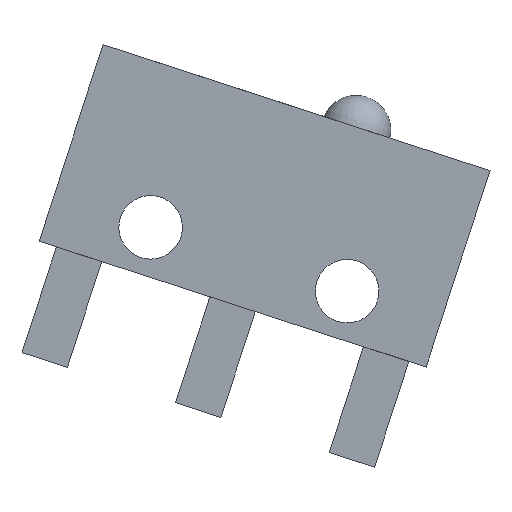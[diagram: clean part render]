
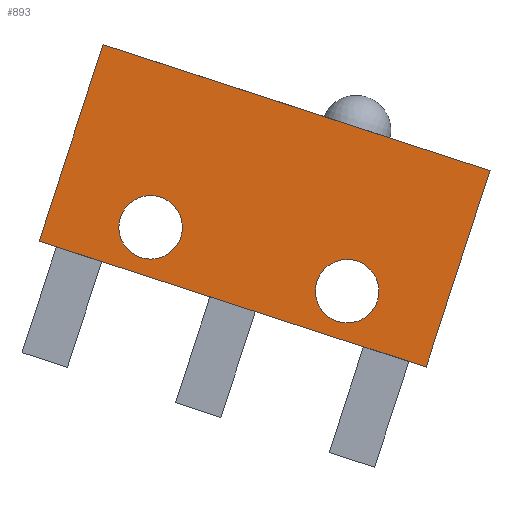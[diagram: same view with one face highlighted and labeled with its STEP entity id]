
A CAD part, left-side view. The second image highlights one B-rep face of the part: STEP entity #893.
In plain terms, the highlighted planar face has unit normal (-1, 0, 0).
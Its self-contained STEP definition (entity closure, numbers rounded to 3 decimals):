
#44 = PLANE('',#45);
#45 = AXIS2_PLACEMENT_3D('',#46,#47,#48);
#46 = CARTESIAN_POINT('',(21.2,22.442,8.215));
#47 = DIRECTION('',(0.,0.951,0.309));
#48 = DIRECTION('',(0.,0.309,-0.951));
#72 = PLANE('',#73);
#73 = AXIS2_PLACEMENT_3D('',#74,#75,#76);
#74 = CARTESIAN_POINT('',(21.2,22.442,8.215));
#75 = DIRECTION('',(0.,-0.309,0.951));
#76 = DIRECTION('',(1.,0.,0.));
#100 = PLANE('',#101);
#101 = AXIS2_PLACEMENT_3D('',#102,#103,#104);
#102 = CARTESIAN_POINT('',(21.2,34.616,12.171));
#103 = DIRECTION('',(0.,0.951,0.309));
#104 = DIRECTION('',(0.,0.309,-0.951));
#126 = PLANE('',#127);
#127 = AXIS2_PLACEMENT_3D('',#128,#129,#130);
#128 = CARTESIAN_POINT('',(21.2,20.433,14.397));
#129 = DIRECTION('',(0.,-0.309,0.951));
#130 = DIRECTION('',(1.,0.,0.));
#161 = CYLINDRICAL_SURFACE('',#162,1.);
#162 = AXIS2_PLACEMENT_3D('',#163,#164,#165);
#163 = CARTESIAN_POINT('',(22.8,31.109,12.609));
#164 = DIRECTION('',(-1.,-0.,-0.));
#165 = DIRECTION('',(-0.,-0.309,0.951));
#196 = CYLINDRICAL_SURFACE('',#197,1.);
#197 = AXIS2_PLACEMENT_3D('',#198,#199,#200);
#198 = CARTESIAN_POINT('',(22.8,24.927,10.6));
#199 = DIRECTION('',(-1.,-0.,-0.));
#200 = DIRECTION('',(-0.,-0.309,0.951));
#212 = VERTEX_POINT('',#213);
#213 = CARTESIAN_POINT('',(15.4,22.442,8.215));
#236 = VERTEX_POINT('',#237);
#237 = CARTESIAN_POINT('',(15.4,20.433,14.397));
#258 = EDGE_CURVE('',#212,#236,#259,.T.);
#259 = SURFACE_CURVE('',#260,(#264,#271),.PCURVE_S1.);
#260 = LINE('',#261,#262);
#261 = CARTESIAN_POINT('',(15.4,22.442,8.215));
#262 = VECTOR('',#263,1.);
#263 = DIRECTION('',(0.,-0.309,0.951));
#264 = PCURVE('',#44,#265);
#265 = DEFINITIONAL_REPRESENTATION('',(#266),#270);
#266 = LINE('',#267,#268);
#267 = CARTESIAN_POINT('',(-0.,5.8));
#268 = VECTOR('',#269,1.);
#269 = DIRECTION('',(-1.,0.));
#270 = ( GEOMETRIC_REPRESENTATION_CONTEXT(2) 
PARAMETRIC_REPRESENTATION_CONTEXT() REPRESENTATION_CONTEXT('2D SPACE',''
  ) );
#271 = PCURVE('',#272,#277);
#272 = PLANE('',#273);
#273 = AXIS2_PLACEMENT_3D('',#274,#275,#276);
#274 = CARTESIAN_POINT('',(15.4,22.442,8.215));
#275 = DIRECTION('',(-1.,-0.,0.));
#276 = DIRECTION('',(0.,0.309,-0.951));
#277 = DEFINITIONAL_REPRESENTATION('',(#278),#282);
#278 = LINE('',#279,#280);
#279 = CARTESIAN_POINT('',(-0.,-0.));
#280 = VECTOR('',#281,1.);
#281 = DIRECTION('',(-1.,0.));
#282 = ( GEOMETRIC_REPRESENTATION_CONTEXT(2) 
PARAMETRIC_REPRESENTATION_CONTEXT() REPRESENTATION_CONTEXT('2D SPACE',''
  ) );
#289 = EDGE_CURVE('',#236,#290,#292,.T.);
#290 = VERTEX_POINT('',#291);
#291 = CARTESIAN_POINT('',(15.4,32.607,18.353));
#292 = SURFACE_CURVE('',#293,(#297,#304),.PCURVE_S1.);
#293 = LINE('',#294,#295);
#294 = CARTESIAN_POINT('',(15.4,20.433,14.397));
#295 = VECTOR('',#296,1.);
#296 = DIRECTION('',(0.,0.951,0.309));
#297 = PCURVE('',#126,#298);
#298 = DEFINITIONAL_REPRESENTATION('',(#299),#303);
#299 = LINE('',#300,#301);
#300 = CARTESIAN_POINT('',(-5.8,0.));
#301 = VECTOR('',#302,1.);
#302 = DIRECTION('',(0.,1.));
#303 = ( GEOMETRIC_REPRESENTATION_CONTEXT(2) 
PARAMETRIC_REPRESENTATION_CONTEXT() REPRESENTATION_CONTEXT('2D SPACE',''
  ) );
#304 = PCURVE('',#272,#305);
#305 = DEFINITIONAL_REPRESENTATION('',(#306),#310);
#306 = LINE('',#307,#308);
#307 = CARTESIAN_POINT('',(-6.5,0.));
#308 = VECTOR('',#309,1.);
#309 = DIRECTION('',(-0.,-1.));
#310 = ( GEOMETRIC_REPRESENTATION_CONTEXT(2) 
PARAMETRIC_REPRESENTATION_CONTEXT() REPRESENTATION_CONTEXT('2D SPACE',''
  ) );
#373 = EDGE_CURVE('',#212,#374,#376,.T.);
#374 = VERTEX_POINT('',#375);
#375 = CARTESIAN_POINT('',(15.4,34.616,12.171));
#376 = SURFACE_CURVE('',#377,(#381,#388),.PCURVE_S1.);
#377 = LINE('',#378,#379);
#378 = CARTESIAN_POINT('',(15.4,22.442,8.215));
#379 = VECTOR('',#380,1.);
#380 = DIRECTION('',(0.,0.951,0.309));
#381 = PCURVE('',#72,#382);
#382 = DEFINITIONAL_REPRESENTATION('',(#383),#387);
#383 = LINE('',#384,#385);
#384 = CARTESIAN_POINT('',(-5.8,0.));
#385 = VECTOR('',#386,1.);
#386 = DIRECTION('',(0.,1.));
#387 = ( GEOMETRIC_REPRESENTATION_CONTEXT(2) 
PARAMETRIC_REPRESENTATION_CONTEXT() REPRESENTATION_CONTEXT('2D SPACE',''
  ) );
#388 = PCURVE('',#272,#389);
#389 = DEFINITIONAL_REPRESENTATION('',(#390),#394);
#390 = LINE('',#391,#392);
#391 = CARTESIAN_POINT('',(-0.,-0.));
#392 = VECTOR('',#393,1.);
#393 = DIRECTION('',(-0.,-1.));
#394 = ( GEOMETRIC_REPRESENTATION_CONTEXT(2) 
PARAMETRIC_REPRESENTATION_CONTEXT() REPRESENTATION_CONTEXT('2D SPACE',''
  ) );
#765 = EDGE_CURVE('',#374,#290,#766,.T.);
#766 = SURFACE_CURVE('',#767,(#771,#778),.PCURVE_S1.);
#767 = LINE('',#768,#769);
#768 = CARTESIAN_POINT('',(15.4,34.616,12.171));
#769 = VECTOR('',#770,1.);
#770 = DIRECTION('',(0.,-0.309,0.951));
#771 = PCURVE('',#100,#772);
#772 = DEFINITIONAL_REPRESENTATION('',(#773),#777);
#773 = LINE('',#774,#775);
#774 = CARTESIAN_POINT('',(-0.,5.8));
#775 = VECTOR('',#776,1.);
#776 = DIRECTION('',(-1.,0.));
#777 = ( GEOMETRIC_REPRESENTATION_CONTEXT(2) 
PARAMETRIC_REPRESENTATION_CONTEXT() REPRESENTATION_CONTEXT('2D SPACE',''
  ) );
#778 = PCURVE('',#272,#779);
#779 = DEFINITIONAL_REPRESENTATION('',(#780),#784);
#780 = LINE('',#781,#782);
#781 = CARTESIAN_POINT('',(0.,-12.8));
#782 = VECTOR('',#783,1.);
#783 = DIRECTION('',(-1.,0.));
#784 = ( GEOMETRIC_REPRESENTATION_CONTEXT(2) 
PARAMETRIC_REPRESENTATION_CONTEXT() REPRESENTATION_CONTEXT('2D SPACE',''
  ) );
#789 = EDGE_CURVE('',#790,#790,#792,.T.);
#790 = VERTEX_POINT('',#791);
#791 = CARTESIAN_POINT('',(15.4,30.8,13.56));
#792 = SURFACE_CURVE('',#793,(#798,#805),.PCURVE_S1.);
#793 = CIRCLE('',#794,1.);
#794 = AXIS2_PLACEMENT_3D('',#795,#796,#797);
#795 = CARTESIAN_POINT('',(15.4,31.109,12.609));
#796 = DIRECTION('',(1.,-0.,0.));
#797 = DIRECTION('',(-0.,-0.309,0.951));
#798 = PCURVE('',#161,#799);
#799 = DEFINITIONAL_REPRESENTATION('',(#800),#804);
#800 = LINE('',#801,#802);
#801 = CARTESIAN_POINT('',(-0.,7.4));
#802 = VECTOR('',#803,1.);
#803 = DIRECTION('',(-1.,0.));
#804 = ( GEOMETRIC_REPRESENTATION_CONTEXT(2) 
PARAMETRIC_REPRESENTATION_CONTEXT() REPRESENTATION_CONTEXT('2D SPACE',''
  ) );
#805 = PCURVE('',#272,#806);
#806 = DEFINITIONAL_REPRESENTATION('',(#807),#815);
#807 = ( BOUNDED_CURVE() B_SPLINE_CURVE(2,(#808,#809,#810,#811,#812,#813
,#814),.UNSPECIFIED.,.T.,.F.) B_SPLINE_CURVE_WITH_KNOTS((1,2,2,2,2,1),(
    -2.094,0.,2.094,4.189,6.283,
8.378),.UNSPECIFIED.) CURVE() GEOMETRIC_REPRESENTATION_ITEM() 
RATIONAL_B_SPLINE_CURVE((1.,0.5,1.,0.5,1.,0.5,1.)) REPRESENTATION_ITEM(
  '') );
#808 = CARTESIAN_POINT('',(-2.5,-9.6));
#809 = CARTESIAN_POINT('',(-2.5,-7.868));
#810 = CARTESIAN_POINT('',(-1.,-8.734));
#811 = CARTESIAN_POINT('',(0.5,-9.6));
#812 = CARTESIAN_POINT('',(-1.,-10.466));
#813 = CARTESIAN_POINT('',(-2.5,-11.332));
#814 = CARTESIAN_POINT('',(-2.5,-9.6));
#815 = ( GEOMETRIC_REPRESENTATION_CONTEXT(2) 
PARAMETRIC_REPRESENTATION_CONTEXT() REPRESENTATION_CONTEXT('2D SPACE',''
  ) );
#843 = EDGE_CURVE('',#844,#844,#846,.T.);
#844 = VERTEX_POINT('',#845);
#845 = CARTESIAN_POINT('',(15.4,24.618,11.551));
#846 = SURFACE_CURVE('',#847,(#852,#859),.PCURVE_S1.);
#847 = CIRCLE('',#848,1.);
#848 = AXIS2_PLACEMENT_3D('',#849,#850,#851);
#849 = CARTESIAN_POINT('',(15.4,24.927,10.6));
#850 = DIRECTION('',(1.,-0.,0.));
#851 = DIRECTION('',(-0.,-0.309,0.951));
#852 = PCURVE('',#196,#853);
#853 = DEFINITIONAL_REPRESENTATION('',(#854),#858);
#854 = LINE('',#855,#856);
#855 = CARTESIAN_POINT('',(-0.,7.4));
#856 = VECTOR('',#857,1.);
#857 = DIRECTION('',(-1.,0.));
#858 = ( GEOMETRIC_REPRESENTATION_CONTEXT(2) 
PARAMETRIC_REPRESENTATION_CONTEXT() REPRESENTATION_CONTEXT('2D SPACE',''
  ) );
#859 = PCURVE('',#272,#860);
#860 = DEFINITIONAL_REPRESENTATION('',(#861),#869);
#861 = ( BOUNDED_CURVE() B_SPLINE_CURVE(2,(#862,#863,#864,#865,#866,#867
,#868),.UNSPECIFIED.,.T.,.F.) B_SPLINE_CURVE_WITH_KNOTS((1,2,2,2,2,1),(
    -2.094,0.,2.094,4.189,6.283,
8.378),.UNSPECIFIED.) CURVE() GEOMETRIC_REPRESENTATION_ITEM() 
RATIONAL_B_SPLINE_CURVE((1.,0.5,1.,0.5,1.,0.5,1.)) REPRESENTATION_ITEM(
  '') );
#862 = CARTESIAN_POINT('',(-2.5,-3.1));
#863 = CARTESIAN_POINT('',(-2.5,-1.368));
#864 = CARTESIAN_POINT('',(-1.,-2.234));
#865 = CARTESIAN_POINT('',(0.5,-3.1));
#866 = CARTESIAN_POINT('',(-1.,-3.966));
#867 = CARTESIAN_POINT('',(-2.5,-4.832));
#868 = CARTESIAN_POINT('',(-2.5,-3.1));
#869 = ( GEOMETRIC_REPRESENTATION_CONTEXT(2) 
PARAMETRIC_REPRESENTATION_CONTEXT() REPRESENTATION_CONTEXT('2D SPACE',''
  ) );
#893 = ADVANCED_FACE('',(#894,#900,#903),#272,.T.);
#894 = FACE_BOUND('',#895,.F.);
#895 = EDGE_LOOP('',(#896,#897,#898,#899));
#896 = ORIENTED_EDGE('',*,*,#258,.F.);
#897 = ORIENTED_EDGE('',*,*,#373,.T.);
#898 = ORIENTED_EDGE('',*,*,#765,.T.);
#899 = ORIENTED_EDGE('',*,*,#289,.F.);
#900 = FACE_BOUND('',#901,.F.);
#901 = EDGE_LOOP('',(#902));
#902 = ORIENTED_EDGE('',*,*,#789,.F.);
#903 = FACE_BOUND('',#904,.F.);
#904 = EDGE_LOOP('',(#905));
#905 = ORIENTED_EDGE('',*,*,#843,.F.);
